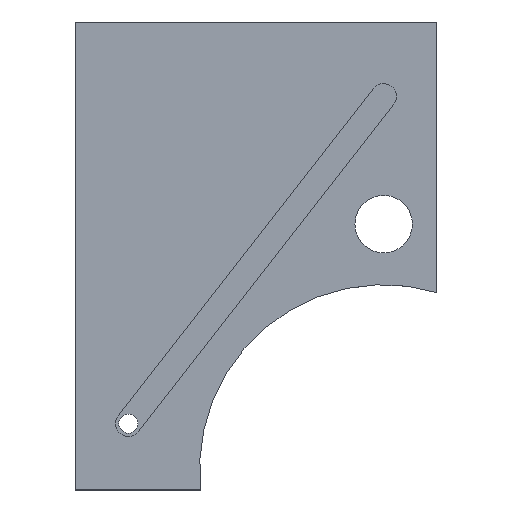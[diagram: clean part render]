
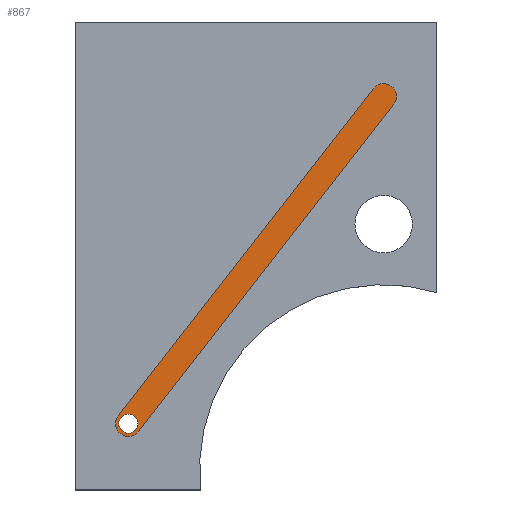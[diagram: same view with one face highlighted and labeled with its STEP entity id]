
A CAD part, top view. The second image highlights one B-rep face of the part: STEP entity #867.
In plain terms, the highlighted planar face has unit normal (0, 0, 1).
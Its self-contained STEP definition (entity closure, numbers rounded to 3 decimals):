
#183 = PLANE('',#184);
#184 = AXIS2_PLACEMENT_3D('',#185,#186,#187);
#185 = CARTESIAN_POINT('',(-24.946,-38.024,11.5));
#186 = DIRECTION('',(-0.788,0.615,0.));
#187 = DIRECTION('',(0.615,0.788,0.));
#216 = CYLINDRICAL_SURFACE('',#217,1.2);
#217 = AXIS2_PLACEMENT_3D('',#218,#219,#220);
#218 = CARTESIAN_POINT('',(0.,-8.,11.5));
#219 = DIRECTION('',(0.,0.,-1.));
#220 = DIRECTION('',(-0.788,0.615,0.));
#244 = PLANE('',#245);
#245 = AXIS2_PLACEMENT_3D('',#246,#247,#248);
#246 = CARTESIAN_POINT('',(0.946,-8.738,11.5));
#247 = DIRECTION('',(0.788,-0.615,0.));
#248 = DIRECTION('',(-0.615,-0.788,0.));
#275 = CYLINDRICAL_SURFACE('',#276,1.2);
#276 = AXIS2_PLACEMENT_3D('',#277,#278,#279);
#277 = CARTESIAN_POINT('',(-24.,-38.762,11.5));
#278 = DIRECTION('',(0.,-0.,-1.));
#279 = DIRECTION('',(0.788,-0.615,0.));
#568 = EDGE_CURVE('',#569,#571,#573,.T.);
#569 = VERTEX_POINT('',#570);
#570 = CARTESIAN_POINT('',(-24.946,-38.024,11.5));
#571 = VERTEX_POINT('',#572);
#572 = CARTESIAN_POINT('',(-0.946,-7.262,11.5));
#573 = SURFACE_CURVE('',#574,(#578,#585),.PCURVE_S1.);
#574 = LINE('',#575,#576);
#575 = CARTESIAN_POINT('',(-24.946,-38.024,11.5));
#576 = VECTOR('',#577,1.);
#577 = DIRECTION('',(0.615,0.788,0.));
#578 = PCURVE('',#183,#579);
#579 = DEFINITIONAL_REPRESENTATION('',(#580),#584);
#580 = LINE('',#581,#582);
#581 = CARTESIAN_POINT('',(0.,0.));
#582 = VECTOR('',#583,1.);
#583 = DIRECTION('',(1.,0.));
#584 = ( GEOMETRIC_REPRESENTATION_CONTEXT(2) 
PARAMETRIC_REPRESENTATION_CONTEXT() REPRESENTATION_CONTEXT('2D SPACE',''
  ) );
#585 = PCURVE('',#586,#591);
#586 = PLANE('',#587);
#587 = AXIS2_PLACEMENT_3D('',#588,#589,#590);
#588 = CARTESIAN_POINT('',(-12.,-23.381,11.5));
#589 = DIRECTION('',(-0.,-0.,-1.));
#590 = DIRECTION('',(-1.,0.,0.));
#591 = DEFINITIONAL_REPRESENTATION('',(#592),#596);
#592 = LINE('',#593,#594);
#593 = CARTESIAN_POINT('',(12.946,-14.643));
#594 = VECTOR('',#595,1.);
#595 = DIRECTION('',(-0.615,0.788));
#596 = ( GEOMETRIC_REPRESENTATION_CONTEXT(2) 
PARAMETRIC_REPRESENTATION_CONTEXT() REPRESENTATION_CONTEXT('2D SPACE',''
  ) );
#644 = EDGE_CURVE('',#571,#645,#647,.T.);
#645 = VERTEX_POINT('',#646);
#646 = CARTESIAN_POINT('',(0.946,-8.738,11.5));
#647 = SURFACE_CURVE('',#648,(#653,#660),.PCURVE_S1.);
#648 = CIRCLE('',#649,1.2);
#649 = AXIS2_PLACEMENT_3D('',#650,#651,#652);
#650 = CARTESIAN_POINT('',(0.,-8.,11.5));
#651 = DIRECTION('',(0.,0.,-1.));
#652 = DIRECTION('',(-0.788,0.615,0.));
#653 = PCURVE('',#216,#654);
#654 = DEFINITIONAL_REPRESENTATION('',(#655),#659);
#655 = LINE('',#656,#657);
#656 = CARTESIAN_POINT('',(0.,0.));
#657 = VECTOR('',#658,1.);
#658 = DIRECTION('',(1.,0.));
#659 = ( GEOMETRIC_REPRESENTATION_CONTEXT(2) 
PARAMETRIC_REPRESENTATION_CONTEXT() REPRESENTATION_CONTEXT('2D SPACE',''
  ) );
#660 = PCURVE('',#586,#661);
#661 = DEFINITIONAL_REPRESENTATION('',(#662),#666);
#662 = CIRCLE('',#663,1.2);
#663 = AXIS2_PLACEMENT_2D('',#664,#665);
#664 = CARTESIAN_POINT('',(-12.,15.381));
#665 = DIRECTION('',(0.788,0.615));
#666 = ( GEOMETRIC_REPRESENTATION_CONTEXT(2) 
PARAMETRIC_REPRESENTATION_CONTEXT() REPRESENTATION_CONTEXT('2D SPACE',''
  ) );
#694 = EDGE_CURVE('',#695,#569,#697,.T.);
#695 = VERTEX_POINT('',#696);
#696 = CARTESIAN_POINT('',(-23.054,-39.5,11.5));
#697 = SURFACE_CURVE('',#698,(#703,#710),.PCURVE_S1.);
#698 = CIRCLE('',#699,1.2);
#699 = AXIS2_PLACEMENT_3D('',#700,#701,#702);
#700 = CARTESIAN_POINT('',(-24.,-38.762,11.5));
#701 = DIRECTION('',(0.,-0.,-1.));
#702 = DIRECTION('',(0.788,-0.615,0.));
#703 = PCURVE('',#275,#704);
#704 = DEFINITIONAL_REPRESENTATION('',(#705),#709);
#705 = LINE('',#706,#707);
#706 = CARTESIAN_POINT('',(0.,0.));
#707 = VECTOR('',#708,1.);
#708 = DIRECTION('',(1.,0.));
#709 = ( GEOMETRIC_REPRESENTATION_CONTEXT(2) 
PARAMETRIC_REPRESENTATION_CONTEXT() REPRESENTATION_CONTEXT('2D SPACE',''
  ) );
#710 = PCURVE('',#586,#711);
#711 = DEFINITIONAL_REPRESENTATION('',(#712),#716);
#712 = CIRCLE('',#713,1.2);
#713 = AXIS2_PLACEMENT_2D('',#714,#715);
#714 = CARTESIAN_POINT('',(12.,-15.381));
#715 = DIRECTION('',(-0.788,-0.615));
#716 = ( GEOMETRIC_REPRESENTATION_CONTEXT(2) 
PARAMETRIC_REPRESENTATION_CONTEXT() REPRESENTATION_CONTEXT('2D SPACE',''
  ) );
#744 = EDGE_CURVE('',#645,#695,#745,.T.);
#745 = SURFACE_CURVE('',#746,(#750,#757),.PCURVE_S1.);
#746 = LINE('',#747,#748);
#747 = CARTESIAN_POINT('',(0.946,-8.738,11.5));
#748 = VECTOR('',#749,1.);
#749 = DIRECTION('',(-0.615,-0.788,0.));
#750 = PCURVE('',#244,#751);
#751 = DEFINITIONAL_REPRESENTATION('',(#752),#756);
#752 = LINE('',#753,#754);
#753 = CARTESIAN_POINT('',(0.,0.));
#754 = VECTOR('',#755,1.);
#755 = DIRECTION('',(1.,0.));
#756 = ( GEOMETRIC_REPRESENTATION_CONTEXT(2) 
PARAMETRIC_REPRESENTATION_CONTEXT() REPRESENTATION_CONTEXT('2D SPACE',''
  ) );
#757 = PCURVE('',#586,#758);
#758 = DEFINITIONAL_REPRESENTATION('',(#759),#763);
#759 = LINE('',#760,#761);
#760 = CARTESIAN_POINT('',(-12.946,14.643));
#761 = VECTOR('',#762,1.);
#762 = DIRECTION('',(0.615,-0.788));
#763 = ( GEOMETRIC_REPRESENTATION_CONTEXT(2) 
PARAMETRIC_REPRESENTATION_CONTEXT() REPRESENTATION_CONTEXT('2D SPACE',''
  ) );
#867 = ADVANCED_FACE('',(#868,#874),#586,.F.);
#868 = FACE_BOUND('',#869,.F.);
#869 = EDGE_LOOP('',(#870,#871,#872,#873));
#870 = ORIENTED_EDGE('',*,*,#568,.T.);
#871 = ORIENTED_EDGE('',*,*,#644,.T.);
#872 = ORIENTED_EDGE('',*,*,#744,.T.);
#873 = ORIENTED_EDGE('',*,*,#694,.T.);
#874 = FACE_BOUND('',#875,.F.);
#875 = EDGE_LOOP('',(#876));
#876 = ORIENTED_EDGE('',*,*,#877,.F.);
#877 = EDGE_CURVE('',#878,#878,#880,.T.);
#878 = VERTEX_POINT('',#879);
#879 = CARTESIAN_POINT('',(-23.1,-38.762,11.5));
#880 = SURFACE_CURVE('',#881,(#886,#893),.PCURVE_S1.);
#881 = CIRCLE('',#882,0.9);
#882 = AXIS2_PLACEMENT_3D('',#883,#884,#885);
#883 = CARTESIAN_POINT('',(-24.,-38.762,11.5));
#884 = DIRECTION('',(0.,0.,-1.));
#885 = DIRECTION('',(1.,0.,0.));
#886 = PCURVE('',#586,#887);
#887 = DEFINITIONAL_REPRESENTATION('',(#888),#892);
#888 = CIRCLE('',#889,0.9);
#889 = AXIS2_PLACEMENT_2D('',#890,#891);
#890 = CARTESIAN_POINT('',(12.,-15.381));
#891 = DIRECTION('',(-1.,0.));
#892 = ( GEOMETRIC_REPRESENTATION_CONTEXT(2) 
PARAMETRIC_REPRESENTATION_CONTEXT() REPRESENTATION_CONTEXT('2D SPACE',''
  ) );
#893 = PCURVE('',#894,#899);
#894 = CYLINDRICAL_SURFACE('',#895,0.9);
#895 = AXIS2_PLACEMENT_3D('',#896,#897,#898);
#896 = CARTESIAN_POINT('',(-24.,-38.762,11.23));
#897 = DIRECTION('',(-0.,-0.,-1.));
#898 = DIRECTION('',(1.,0.,0.));
#899 = DEFINITIONAL_REPRESENTATION('',(#900),#904);
#900 = LINE('',#901,#902);
#901 = CARTESIAN_POINT('',(0.,-0.27));
#902 = VECTOR('',#903,1.);
#903 = DIRECTION('',(1.,-0.));
#904 = ( GEOMETRIC_REPRESENTATION_CONTEXT(2) 
PARAMETRIC_REPRESENTATION_CONTEXT() REPRESENTATION_CONTEXT('2D SPACE',''
  ) );
